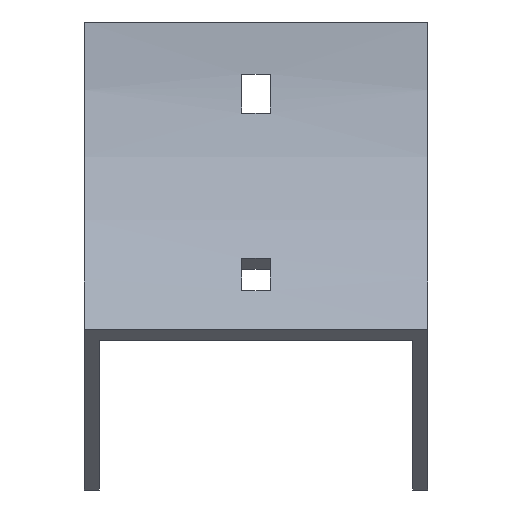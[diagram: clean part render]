
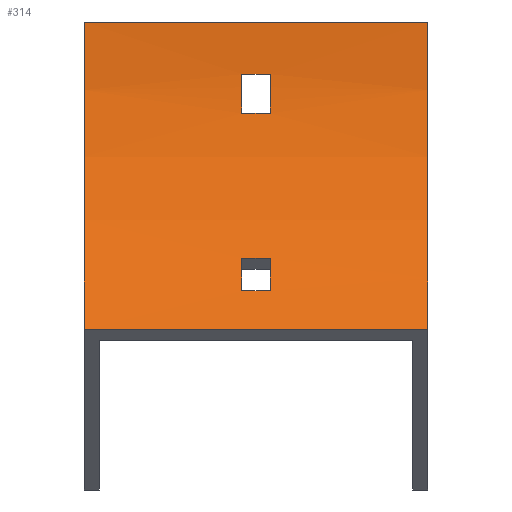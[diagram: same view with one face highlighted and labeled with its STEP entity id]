
A CAD part, front view. The second image highlights one B-rep face of the part: STEP entity #314.
In plain terms, the highlighted cylindrical face has radius 100 mm (diameter 200 mm), a partial arc.
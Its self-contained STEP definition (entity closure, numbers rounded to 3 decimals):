
#1 = CARTESIAN_POINT ( 'NONE',  ( 3.25, -16.017, -54.285 ) ) ;
#6 = VECTOR ( 'NONE', #698, 1000. ) ;
#13 = DIRECTION ( 'NONE',  ( 0., 0., 1. ) ) ;
#27 = LINE ( 'NONE', #291, #276 ) ;
#39 = AXIS2_PLACEMENT_3D ( 'NONE', #187, #638, #898 ) ;
#48 = DIRECTION ( 'NONE',  ( 0., 0., 1. ) ) ;
#51 = CIRCLE ( 'NONE', #237, 100. ) ;
#57 = CARTESIAN_POINT ( 'NONE',  ( -39.5, 0., 0. ) ) ;
#64 = CARTESIAN_POINT ( 'NONE',  ( -3.25, -100., 0. ) ) ;
#65 = DIRECTION ( 'NONE',  ( 1., 0., 0. ) ) ;
#86 = EDGE_CURVE ( 'NONE', #764, #1105, #51, .T. ) ;
#92 = VERTEX_POINT ( 'NONE', #1051 ) ;
#100 = ORIENTED_EDGE ( 'NONE', *, *, #295, .F. ) ;
#101 = CARTESIAN_POINT ( 'NONE',  ( 39.5, -29.289, -70.711 ) ) ;
#114 = CARTESIAN_POINT ( 'NONE',  ( 39.5, 0., 0. ) ) ;
#119 = LINE ( 'NONE', #994, #972 ) ;
#142 = VERTEX_POINT ( 'NONE', #761 ) ;
#154 = CARTESIAN_POINT ( 'NONE',  ( -3.25, -2.23, -21. ) ) ;
#157 = ORIENTED_EDGE ( 'NONE', *, *, #773, .F. ) ;
#170 = ORIENTED_EDGE ( 'NONE', *, *, #943, .T. ) ;
#175 = AXIS2_PLACEMENT_3D ( 'NONE', #1102, #476, #829 ) ;
#181 = DIRECTION ( 'NONE',  ( -1., 0., 0. ) ) ;
#187 = CARTESIAN_POINT ( 'NONE',  ( 3.25, -100., 0. ) ) ;
#192 = FACE_BOUND ( 'NONE', #259, .T. ) ;
#224 = CARTESIAN_POINT ( 'NONE',  ( -39.5, -29.289, -70.711 ) ) ;
#227 = CARTESIAN_POINT ( 'NONE',  ( -3.25, -21.315, -61.714 ) ) ;
#237 = AXIS2_PLACEMENT_3D ( 'NONE', #64, #774, #606 ) ;
#259 = EDGE_LOOP ( 'NONE', ( #170, #1073, #269, #847 ) ) ;
#263 = CARTESIAN_POINT ( 'NONE',  ( 39.5, -29.289, -70.711 ) ) ;
#267 = EDGE_CURVE ( 'NONE', #857, #142, #522, .T. ) ;
#269 = ORIENTED_EDGE ( 'NONE', *, *, #808, .T. ) ;
#271 = VERTEX_POINT ( 'NONE', #101 ) ;
#276 = VECTOR ( 'NONE', #739, 1000. ) ;
#291 = CARTESIAN_POINT ( 'NONE',  ( 39.5, 0., 0. ) ) ;
#292 = CIRCLE ( 'NONE', #39, 100. ) ;
#295 = EDGE_CURVE ( 'NONE', #945, #857, #491, .T. ) ;
#308 = CARTESIAN_POINT ( 'NONE',  ( 3.25, -100., 0. ) ) ;
#314 = ADVANCED_FACE ( 'NONE', ( #1078, #192, #568 ), #481, .F. ) ;
#317 = EDGE_LOOP ( 'NONE', ( #715, #975, #674, #777 ) ) ;
#327 = LINE ( 'NONE', #1120, #6 ) ;
#349 = VECTOR ( 'NONE', #973, 1000. ) ;
#359 = VERTEX_POINT ( 'NONE', #224 ) ;
#450 = VECTOR ( 'NONE', #1056, 1000. ) ;
#475 = CIRCLE ( 'NONE', #884, 100. ) ;
#476 = DIRECTION ( 'NONE',  ( -1., 0., 0. ) ) ;
#481 = CYLINDRICAL_SURFACE ( 'NONE', #840, 100. ) ;
#482 = VERTEX_POINT ( 'NONE', #1 ) ;
#488 = DIRECTION ( 'NONE',  ( -1., 0., 0. ) ) ;
#491 = CIRCLE ( 'NONE', #524, 100. ) ;
#522 = LINE ( 'NONE', #702, #450 ) ;
#524 = AXIS2_PLACEMENT_3D ( 'NONE', #827, #488, #993 ) ;
#534 = LINE ( 'NONE', #263, #730 ) ;
#548 = DIRECTION ( 'NONE',  ( -1., 0., 0. ) ) ;
#563 = CARTESIAN_POINT ( 'NONE',  ( 3.25, -0.723, -12. ) ) ;
#568 = FACE_BOUND ( 'NONE', #1079, .T. ) ;
#570 = EDGE_CURVE ( 'NONE', #482, #945, #1062, .T. ) ;
#573 = EDGE_CURVE ( 'NONE', #271, #359, #534, .T. ) ;
#606 = DIRECTION ( 'NONE',  ( 0., 0., 1. ) ) ;
#608 = DIRECTION ( 'NONE',  ( -1., 0., 0. ) ) ;
#625 = CARTESIAN_POINT ( 'NONE',  ( 39.5, -16.017, -54.285 ) ) ;
#638 = DIRECTION ( 'NONE',  ( -1., 0., 0. ) ) ;
#650 = ORIENTED_EDGE ( 'NONE', *, *, #267, .F. ) ;
#661 = DIRECTION ( 'NONE',  ( -1., 0., 0. ) ) ;
#669 = CARTESIAN_POINT ( 'NONE',  ( 39.5, -100., 0. ) ) ;
#674 = ORIENTED_EDGE ( 'NONE', *, *, #1131, .F. ) ;
#684 = DIRECTION ( 'NONE',  ( 0., 0., 1. ) ) ;
#686 = ORIENTED_EDGE ( 'NONE', *, *, #570, .F. ) ;
#698 = DIRECTION ( 'NONE',  ( 1., 0., 0. ) ) ;
#702 = CARTESIAN_POINT ( 'NONE',  ( 39.5, -21.315, -61.714 ) ) ;
#715 = ORIENTED_EDGE ( 'NONE', *, *, #974, .T. ) ;
#730 = VECTOR ( 'NONE', #548, 1000. ) ;
#739 = DIRECTION ( 'NONE',  ( -1., 0., 0. ) ) ;
#751 = CARTESIAN_POINT ( 'NONE',  ( 39.5, -100., 0. ) ) ;
#761 = CARTESIAN_POINT ( 'NONE',  ( 3.25, -21.315, -61.714 ) ) ;
#764 = VERTEX_POINT ( 'NONE', #154 ) ;
#773 = EDGE_CURVE ( 'NONE', #142, #482, #475, .T. ) ;
#774 = DIRECTION ( 'NONE',  ( 1., 0., 0. ) ) ;
#777 = ORIENTED_EDGE ( 'NONE', *, *, #981, .T. ) ;
#808 = EDGE_CURVE ( 'NONE', #1105, #914, #327, .T. ) ;
#827 = CARTESIAN_POINT ( 'NONE',  ( -3.25, -100., 0. ) ) ;
#829 = DIRECTION ( 'NONE',  ( 0., 0., 1. ) ) ;
#840 = AXIS2_PLACEMENT_3D ( 'NONE', #751, #661, #13 ) ;
#842 = VERTEX_POINT ( 'NONE', #57 ) ;
#843 = CIRCLE ( 'NONE', #175, 100. ) ;
#847 = ORIENTED_EDGE ( 'NONE', *, *, #907, .T. ) ;
#857 = VERTEX_POINT ( 'NONE', #227 ) ;
#884 = AXIS2_PLACEMENT_3D ( 'NONE', #308, #65, #684 ) ;
#898 = DIRECTION ( 'NONE',  ( 0., 0., -1. ) ) ;
#907 = EDGE_CURVE ( 'NONE', #914, #92, #292, .T. ) ;
#913 = CARTESIAN_POINT ( 'NONE',  ( -3.25, -0.723, -12. ) ) ;
#914 = VERTEX_POINT ( 'NONE', #563 ) ;
#918 = CARTESIAN_POINT ( 'NONE',  ( -3.25, -16.017, -54.285 ) ) ;
#922 = CIRCLE ( 'NONE', #1070, 100. ) ;
#943 = EDGE_CURVE ( 'NONE', #92, #764, #119, .T. ) ;
#945 = VERTEX_POINT ( 'NONE', #918 ) ;
#972 = VECTOR ( 'NONE', #181, 1000. ) ;
#973 = DIRECTION ( 'NONE',  ( -1., 0., 0. ) ) ;
#974 = EDGE_CURVE ( 'NONE', #842, #359, #843, .T. ) ;
#975 = ORIENTED_EDGE ( 'NONE', *, *, #573, .F. ) ;
#981 = EDGE_CURVE ( 'NONE', #1083, #842, #27, .T. ) ;
#993 = DIRECTION ( 'NONE',  ( 0., 0., -1. ) ) ;
#994 = CARTESIAN_POINT ( 'NONE',  ( 39.5, -2.23, -21. ) ) ;
#1051 = CARTESIAN_POINT ( 'NONE',  ( 3.25, -2.23, -21. ) ) ;
#1056 = DIRECTION ( 'NONE',  ( 1., 0., 0. ) ) ;
#1062 = LINE ( 'NONE', #625, #349 ) ;
#1070 = AXIS2_PLACEMENT_3D ( 'NONE', #669, #608, #48 ) ;
#1073 = ORIENTED_EDGE ( 'NONE', *, *, #86, .T. ) ;
#1078 = FACE_OUTER_BOUND ( 'NONE', #317, .T. ) ;
#1079 = EDGE_LOOP ( 'NONE', ( #100, #686, #157, #650 ) ) ;
#1083 = VERTEX_POINT ( 'NONE', #114 ) ;
#1102 = CARTESIAN_POINT ( 'NONE',  ( -39.5, -100., 0. ) ) ;
#1105 = VERTEX_POINT ( 'NONE', #913 ) ;
#1120 = CARTESIAN_POINT ( 'NONE',  ( 39.5, -0.723, -12. ) ) ;
#1131 = EDGE_CURVE ( 'NONE', #1083, #271, #922, .T. ) ;
